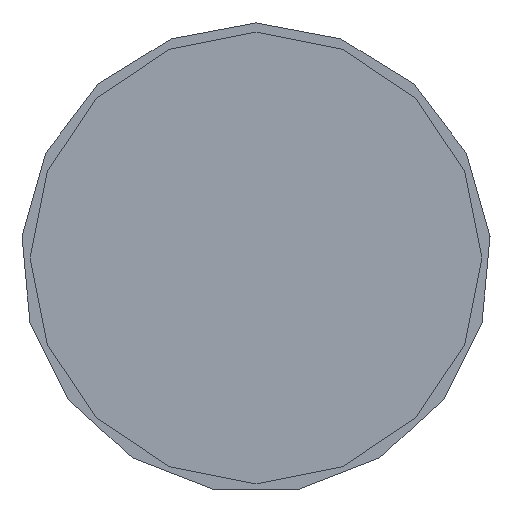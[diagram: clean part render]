
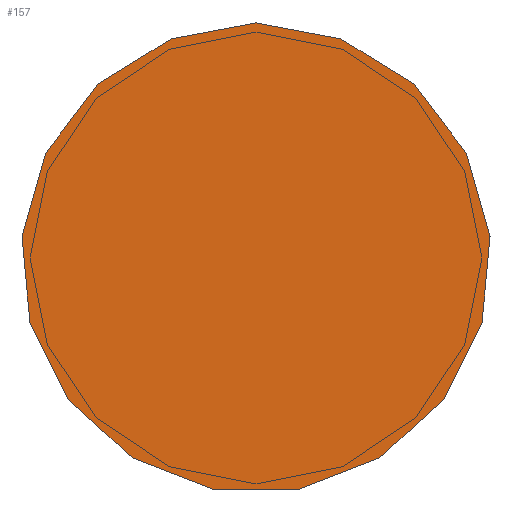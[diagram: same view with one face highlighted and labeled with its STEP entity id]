
A CAD part, left-side view. The second image highlights one B-rep face of the part: STEP entity #157.
In plain terms, the highlighted planar face has unit normal (-1, 0, 0).
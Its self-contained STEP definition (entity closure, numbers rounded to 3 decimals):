
#129 = VERTEX_POINT('',#130);
#130 = CARTESIAN_POINT('',(-5028.,0.,10.4));
#136 = EDGE_CURVE('',#129,#129,#137,.T.);
#137 = CIRCLE('',#138,10.4);
#138 = AXIS2_PLACEMENT_3D('',#139,#140,#141);
#139 = CARTESIAN_POINT('',(-5028.,0.,0.));
#140 = DIRECTION('',(1.,0.,0.));
#141 = DIRECTION('',(-0.,0.,1.));
#157 = ADVANCED_FACE('',(#158),#161,.F.);
#158 = FACE_BOUND('',#159,.T.);
#159 = EDGE_LOOP('',(#160));
#160 = ORIENTED_EDGE('',*,*,#136,.F.);
#161 = PLANE('',#162);
#162 = AXIS2_PLACEMENT_3D('',#163,#164,#165);
#163 = CARTESIAN_POINT('',(-5028.,0.,0.));
#164 = DIRECTION('',(1.,0.,0.));
#165 = DIRECTION('',(-0.,0.,1.));
